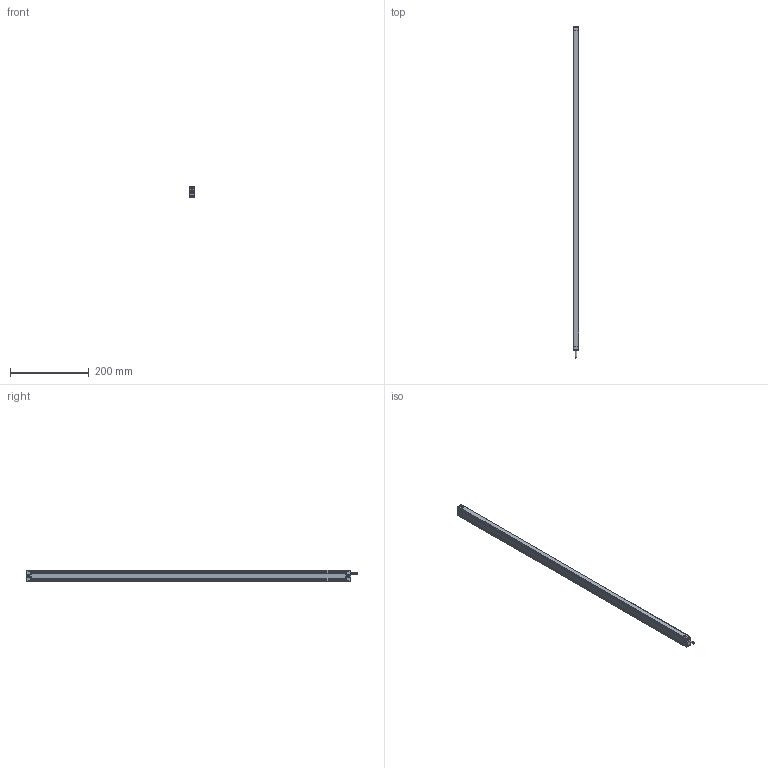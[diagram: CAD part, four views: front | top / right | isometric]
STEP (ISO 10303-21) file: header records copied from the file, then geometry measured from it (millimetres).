
FILE_DESCRIPTION((''),'2;1');
FILE_NAME('EB13-0320_ASM','2021-07-16T09:31:17',('18720616900'),(''),'CREO PARAMETRIC BY PTC INC, 2019010','CREO PARAMETRIC BY PTC INC, 2019010','');
FILE_SCHEMA(('CONFIG_CONTROL_DESIGN'));
Products named in the file (7): EB1300; 000; 0002; 0004; EB13-0320_ASM
Assembly tree (9 placements, depth 2):
  EB13-0320_ASM
    EB1300
    000
    0002
    000
    0004  x4
    000
Bounding box: 13 x 842.4 x 28 mm (x, y, z)
Volume: 309353.4 mm3; surface area: 107312.6 mm2
Topology: 9 solids, 27 shells, 1032 faces, 3520 edges, 2523 vertices
Faces by surface type: cylinder 544, plane 295, bspline 118, torus 40, sphere 31, cone 4
Entity records: 52594 total; most frequent: CARTESIAN_POINT 37957, ORIENTED_EDGE 3370, DIRECTION 2501, EDGE_CURVE 1685, VERTEX_POINT 1150, AXIS2_PLACEMENT_3D 849, VECTOR 803, LINE 803
